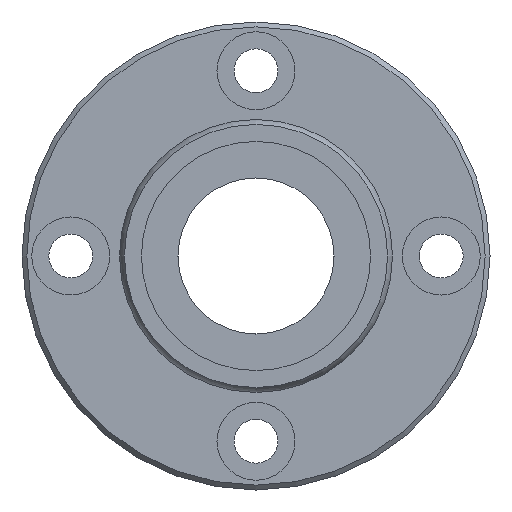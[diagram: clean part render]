
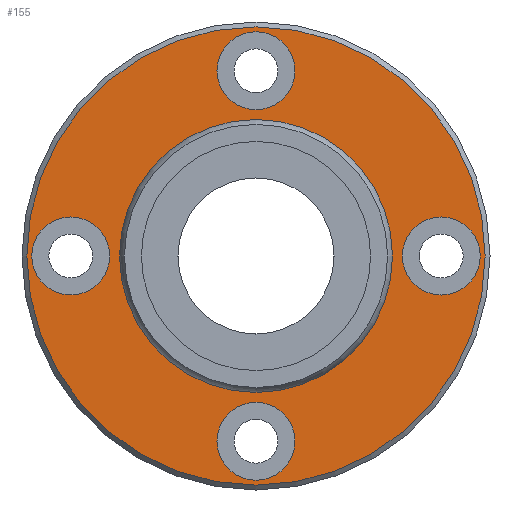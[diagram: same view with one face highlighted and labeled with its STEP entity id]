
A CAD part, left-side view. The second image highlights one B-rep face of the part: STEP entity #155.
In plain terms, the highlighted planar face has unit normal (-1, 0, 0).
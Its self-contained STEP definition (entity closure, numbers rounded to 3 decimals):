
#60=CARTESIAN_POINT('',(31.,0.,23.5));
#61=VERTEX_POINT('',#60);
#62=CARTESIAN_POINT('',(31.,0.0,0.0));
#63=DIRECTION('',(1.0,0.0,0.0));
#64=DIRECTION('',(0.0,0.0,-1.0));
#65=AXIS2_PLACEMENT_3D('',#62,#63,#64);
#66=CIRCLE('',#65,23.5);
#67=EDGE_CURVE('',#61,#61,#66,.T.);
#92=CARTESIAN_POINT('',(31.,0.0,18.887));
#93=DIRECTION('',(-1.0,0.0,0.0));
#94=DIRECTION('',(0.0,0.0,1.0));
#95=AXIS2_PLACEMENT_3D('',#92,#93,#94);
#96=PLANE('',#95);
#97=ORIENTED_EDGE('',*,*,#67,.F.);
#98=EDGE_LOOP('',(#97));
#99=FACE_OUTER_BOUND('',#98,.T.);
#100=CARTESIAN_POINT('',(31.,0.0,13.773));
#101=VERTEX_POINT('',#100);
#102=CARTESIAN_POINT('',(31.,0.0,0.0));
#103=DIRECTION('',(-1.0,0.0,0.0));
#104=DIRECTION('',(0.0,0.0,1.0));
#105=AXIS2_PLACEMENT_3D('',#102,#103,#104);
#106=CIRCLE('',#105,13.773);
#107=EDGE_CURVE('',#101,#101,#106,.T.);
#108=ORIENTED_EDGE('',*,*,#107,.F.);
#109=EDGE_LOOP('',(#108));
#110=FACE_BOUND('',#109,.T.);
#111=CARTESIAN_POINT('',(31.0,-15.0,0.));
#112=VERTEX_POINT('',#111);
#113=CARTESIAN_POINT('',(31.,-19.0,0.));
#114=DIRECTION('',(1.0,0.0,0.0));
#115=DIRECTION('',(0.0,1.0,0.0));
#116=AXIS2_PLACEMENT_3D('',#113,#114,#115);
#117=CIRCLE('',#116,4.0);
#118=EDGE_CURVE('',#112,#112,#117,.T.);
#119=ORIENTED_EDGE('',*,*,#118,.T.);
#120=EDGE_LOOP('',(#119));
#121=FACE_BOUND('',#120,.T.);
#122=CARTESIAN_POINT('',(31.0,23.,0.));
#123=VERTEX_POINT('',#122);
#124=CARTESIAN_POINT('',(31.,19.0,0.));
#125=DIRECTION('',(1.0,0.0,0.0));
#126=DIRECTION('',(0.0,1.0,0.0));
#127=AXIS2_PLACEMENT_3D('',#124,#125,#126);
#128=CIRCLE('',#127,4.0);
#129=EDGE_CURVE('',#123,#123,#128,.T.);
#130=ORIENTED_EDGE('',*,*,#129,.T.);
#131=EDGE_LOOP('',(#130));
#132=FACE_BOUND('',#131,.T.);
#133=CARTESIAN_POINT('',(31.0,4.,19.0));
#134=VERTEX_POINT('',#133);
#135=CARTESIAN_POINT('',(31.,0.,19.0));
#136=DIRECTION('',(1.0,0.0,0.0));
#137=DIRECTION('',(0.0,1.0,0.0));
#138=AXIS2_PLACEMENT_3D('',#135,#136,#137);
#139=CIRCLE('',#138,4.0);
#140=EDGE_CURVE('',#134,#134,#139,.T.);
#141=ORIENTED_EDGE('',*,*,#140,.T.);
#142=EDGE_LOOP('',(#141));
#143=FACE_BOUND('',#142,.T.);
#144=CARTESIAN_POINT('',(31.0,4.,-19.0));
#145=VERTEX_POINT('',#144);
#146=CARTESIAN_POINT('',(31.,0.,-19.0));
#147=DIRECTION('',(1.0,0.0,0.0));
#148=DIRECTION('',(0.0,1.0,0.0));
#149=AXIS2_PLACEMENT_3D('',#146,#147,#148);
#150=CIRCLE('',#149,4.0);
#151=EDGE_CURVE('',#145,#145,#150,.T.);
#152=ORIENTED_EDGE('',*,*,#151,.T.);
#153=EDGE_LOOP('',(#152));
#154=FACE_BOUND('',#153,.T.);
#155=ADVANCED_FACE('',(#99,#110,#121,#132,#143,#154),#96,.T.);
